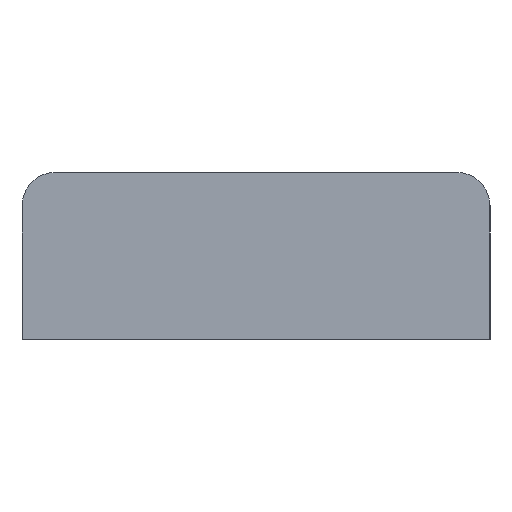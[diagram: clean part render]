
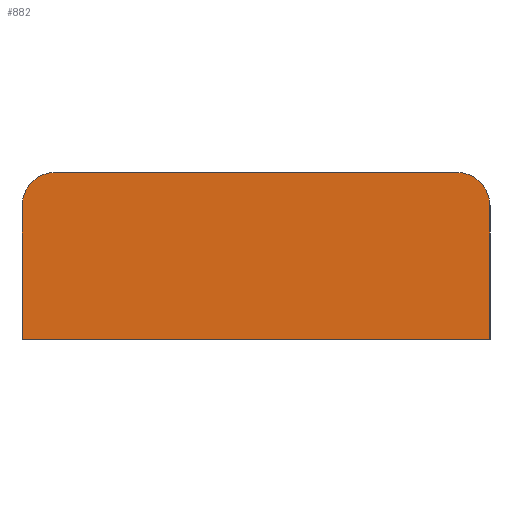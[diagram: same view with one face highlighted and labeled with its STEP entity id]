
A CAD part, left-side view. The second image highlights one B-rep face of the part: STEP entity #882.
In plain terms, the highlighted planar face has unit normal (-1, 0, 0).
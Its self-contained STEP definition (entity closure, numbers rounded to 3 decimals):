
#141 = ORIENTED_EDGE ( 'NONE', *, *, #1982, .T. ) ;
#208 = CARTESIAN_POINT ( 'NONE',  ( 0., 14., 0. ) ) ;
#272 = EDGE_CURVE ( 'NONE', #4015, #4063, #635, .T. ) ;
#623 = CARTESIAN_POINT ( 'NONE',  ( 0., 26., 10. ) ) ;
#635 = LINE ( 'NONE', #4361, #2714 ) ;
#704 = LINE ( 'NONE', #4232, #941 ) ;
#882 = ADVANCED_FACE ( 'NONE', ( #3251 ), #3832, .T. ) ;
#927 = VECTOR ( 'NONE', #3997, 1000. ) ;
#941 = VECTOR ( 'NONE', #1791, 1000. ) ;
#978 = CARTESIAN_POINT ( 'NONE',  ( 0., 28., 0. ) ) ;
#1042 = CARTESIAN_POINT ( 'NONE',  ( 0., 26., 8. ) ) ;
#1059 = ORIENTED_EDGE ( 'NONE', *, *, #2420, .F. ) ;
#1314 = CARTESIAN_POINT ( 'NONE',  ( 0., 2., 8. ) ) ;
#1395 = DIRECTION ( 'NONE',  ( 0., 0., 1. ) ) ;
#1457 = DIRECTION ( 'NONE',  ( 0., -1., 0. ) ) ;
#1736 = VECTOR ( 'NONE', #4302, 1000. ) ;
#1745 = DIRECTION ( 'NONE',  ( 0., -1., 0. ) ) ;
#1791 = DIRECTION ( 'NONE',  ( 0., 0., 1. ) ) ;
#1872 = LINE ( 'NONE', #208, #1736 ) ;
#1888 = CARTESIAN_POINT ( 'NONE',  ( 0., 2., 10. ) ) ;
#1982 = EDGE_CURVE ( 'NONE', #2584, #3957, #1872, .T. ) ;
#2168 = CARTESIAN_POINT ( 'NONE',  ( 0., 28., 8. ) ) ;
#2330 = CIRCLE ( 'NONE', #2945, 2. ) ;
#2420 = EDGE_CURVE ( 'NONE', #2584, #3824, #4223, .T. ) ;
#2584 = VERTEX_POINT ( 'NONE', #3570 ) ;
#2714 = VECTOR ( 'NONE', #4672, 1000. ) ;
#2771 = AXIS2_PLACEMENT_3D ( 'NONE', #978, #3868, #1395 ) ;
#2945 = AXIS2_PLACEMENT_3D ( 'NONE', #1042, #3931, #1457 ) ;
#3050 = AXIS2_PLACEMENT_3D ( 'NONE', #1314, #4197, #1745 ) ;
#3215 = EDGE_CURVE ( 'NONE', #4063, #4974, #5140, .T. ) ;
#3251 = FACE_OUTER_BOUND ( 'NONE', #3881, .T. ) ;
#3383 = EDGE_CURVE ( 'NONE', #3824, #4015, #2330, .T. ) ;
#3463 = CARTESIAN_POINT ( 'NONE',  ( 0., 0., 0. ) ) ;
#3570 = CARTESIAN_POINT ( 'NONE',  ( 0., 28., 0. ) ) ;
#3824 = VERTEX_POINT ( 'NONE', #2168 ) ;
#3832 = PLANE ( 'NONE',  #2771 ) ;
#3845 = CARTESIAN_POINT ( 'NONE',  ( 0., 0., 8. ) ) ;
#3851 = EDGE_CURVE ( 'NONE', #3957, #4974, #704, .T. ) ;
#3868 = DIRECTION ( 'NONE',  ( -1., 0., 0. ) ) ;
#3881 = EDGE_LOOP ( 'NONE', ( #3951, #4199, #1059, #141, #5194, #5076 ) ) ;
#3931 = DIRECTION ( 'NONE',  ( 1., 0., 0. ) ) ;
#3951 = ORIENTED_EDGE ( 'NONE', *, *, #272, .F. ) ;
#3957 = VERTEX_POINT ( 'NONE', #3463 ) ;
#3997 = DIRECTION ( 'NONE',  ( 0., 0., 1. ) ) ;
#4015 = VERTEX_POINT ( 'NONE', #623 ) ;
#4063 = VERTEX_POINT ( 'NONE', #1888 ) ;
#4197 = DIRECTION ( 'NONE',  ( 1., 0., 0. ) ) ;
#4199 = ORIENTED_EDGE ( 'NONE', *, *, #3383, .F. ) ;
#4223 = LINE ( 'NONE', #4797, #927 ) ;
#4232 = CARTESIAN_POINT ( 'NONE',  ( 0., 0., 4. ) ) ;
#4302 = DIRECTION ( 'NONE',  ( 0., -1., 0. ) ) ;
#4361 = CARTESIAN_POINT ( 'NONE',  ( 0., 14., 10. ) ) ;
#4672 = DIRECTION ( 'NONE',  ( 0., -1., 0. ) ) ;
#4797 = CARTESIAN_POINT ( 'NONE',  ( 0., 28., 4. ) ) ;
#4974 = VERTEX_POINT ( 'NONE', #3845 ) ;
#5076 = ORIENTED_EDGE ( 'NONE', *, *, #3215, .F. ) ;
#5140 = CIRCLE ( 'NONE', #3050, 2. ) ;
#5194 = ORIENTED_EDGE ( 'NONE', *, *, #3851, .T. ) ;
